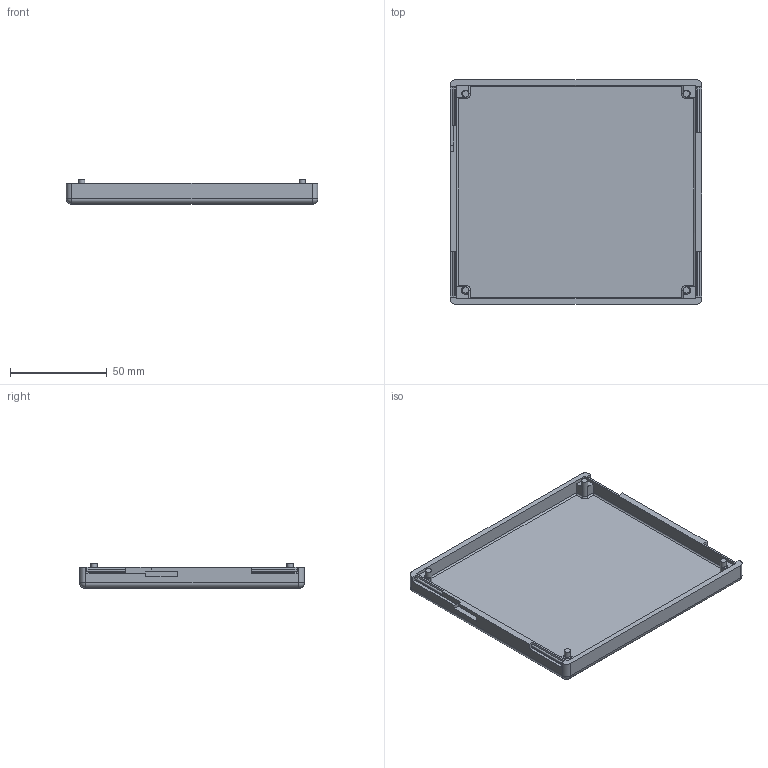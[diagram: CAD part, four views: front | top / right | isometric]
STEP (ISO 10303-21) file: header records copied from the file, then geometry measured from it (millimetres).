
FILE_DESCRIPTION(/* description */ ('STEP AP242 Edition 2','CAx-IF Rec.Pracs.---Representation and Presentation of Product Manufacturing Information (PMI)---4.0---2014-10-13','CAx-IF Rec.Pracs.---3D Tessellated Geometry---0.4---2014-09-14','2;1','CAx-IF Rec.Pracs.---User Defined Attributes---1.5---2016-08-15'),/* implementation_level */ '2;1');
FILE_NAME(/* name */ 'Untitled - Base',/* time_stamp */ '2026-05-27T17:41:01Z',/* author */ (''),/* organization */ (''),/* preprocessor_version */ 'ST-DEVELOPER v20',/* originating_system */ 'ONSHAPE BY PTC INC, 1.215',/* authorisation */ ' ');
FILE_SCHEMA (('AP242_MANAGED_MODEL_BASED_3D_ENGINEERING_MIM_LF { 1 0 10303 442 3 1 4 }'));
Length unit declared in the file: metre
Products named in the file (1): Base
Bounding box: 130.36 x 116.46 x 12.82 mm (x, y, z)
Volume: 53821.7 mm3; surface area: 38810.4 mm2
Topology: 1 solids, 1 shells, 112 faces, 330 edges, 216 vertices
Faces by surface type: plane 64, cylinder 36, torus 8, sphere 4
Full cylindrical faces by diameter (mm): 3.258 x4
Entity records: 3713 total; most frequent: CARTESIAN_POINT 726, ORIENTED_EDGE 636, DIRECTION 611, EDGE_CURVE 318, VERTEX_POINT 212, AXIS2_PLACEMENT_3D 205, LINE 201, VECTOR 201
